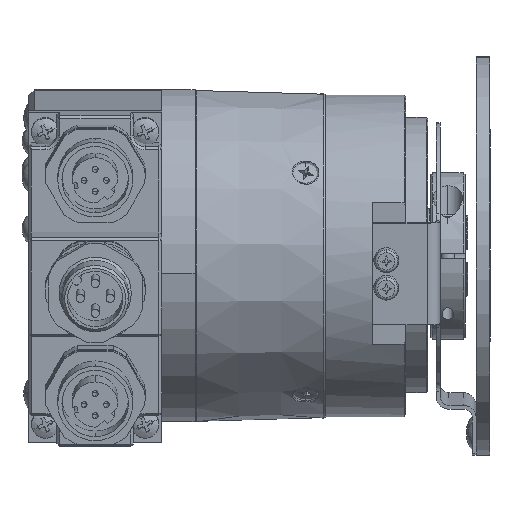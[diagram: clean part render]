
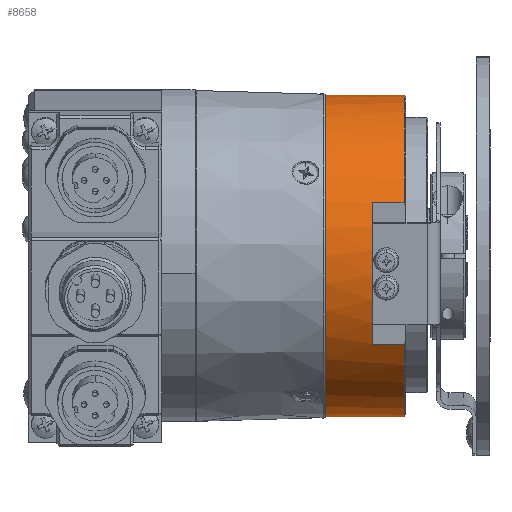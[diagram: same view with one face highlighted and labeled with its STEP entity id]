
A CAD part, front view. The second image highlights one B-rep face of the part: STEP entity #8658.
In plain terms, the highlighted cylindrical face has radius 29 mm (diameter 58 mm), a partial arc.
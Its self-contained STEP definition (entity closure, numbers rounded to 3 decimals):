
#1524 = EDGE_CURVE ( 'NONE', #1611, #1525, #56571, .T. ) ;
#1525 = VERTEX_POINT ( 'NONE', #56564 ) ;
#1528 = VERTEX_POINT ( 'NONE', #56556 ) ;
#1530 = EDGE_CURVE ( 'NONE', #1531, #1528, #56671, .T. ) ;
#1531 = VERTEX_POINT ( 'NONE', #56663 ) ;
#1611 = VERTEX_POINT ( 'NONE', #57095 ) ;
#1853 = EDGE_CURVE ( 'NONE', #1854, #1531, #58743, .T. ) ;
#1854 = VERTEX_POINT ( 'NONE', #58735 ) ;
#8622 = ORIENTED_EDGE ( 'NONE', *, *, #14124, .T. ) ;
#8623 = ORIENTED_EDGE ( 'NONE', *, *, #8625, .T. ) ;
#8625 = EDGE_CURVE ( 'NONE', #14121, #14113, #19623, .T. ) ;
#8626 = ORIENTED_EDGE ( 'NONE', *, *, #14111, .T. ) ;
#8627 = ORIENTED_EDGE ( 'NONE', *, *, #1853, .T. ) ;
#8628 = ORIENTED_EDGE ( 'NONE', *, *, #1530, .T. ) ;
#8629 = ORIENTED_EDGE ( 'NONE', *, *, #8657, .F. ) ;
#8657 = EDGE_CURVE ( 'NONE', #1525, #1528, #19757, .T. ) ;
#8658 = ADVANCED_FACE ( 'NONE', ( #19894 ), #19844, .T. ) ;
#8660 = EDGE_LOOP ( 'NONE', ( #8661, #8662, #8622, #8623, #8626, #8627, #8628, #8629 ) ) ;
#8661 = ORIENTED_EDGE ( 'NONE', *, *, #1524, .F. ) ;
#8662 = ORIENTED_EDGE ( 'NONE', *, *, #8664, .T. ) ;
#8664 = EDGE_CURVE ( 'NONE', #1611, #14147, #19846, .T. ) ;
#14111 = EDGE_CURVE ( 'NONE', #14113, #1854, #45600, .T. ) ;
#14113 = VERTEX_POINT ( 'NONE', #45596 ) ;
#14121 = VERTEX_POINT ( 'NONE', #45673 ) ;
#14124 = EDGE_CURVE ( 'NONE', #14147, #14121, #45668, .T. ) ;
#14147 = VERTEX_POINT ( 'NONE', #45692 ) ;
#19616 = DIRECTION ( 'NONE',  ( 0., -1., 0. ) ) ;
#19618 = DIRECTION ( 'NONE',  ( -1., 0., 0. ) ) ;
#19619 = CARTESIAN_POINT ( 'NONE',  ( 16., 0., 0. ) ) ;
#19621 = AXIS2_PLACEMENT_3D ( 'NONE', #19619, #19618, #19616 ) ;
#19623 = CIRCLE ( 'NONE', #19621, 29. ) ;
#19754 = DIRECTION ( 'NONE',  ( -1., 0., 0. ) ) ;
#19756 = AXIS2_PLACEMENT_3D ( 'NONE', #19772, #19754, #19896 ) ;
#19757 = CIRCLE ( 'NONE', #19756, 29. ) ;
#19772 = CARTESIAN_POINT ( 'NONE',  ( 7.5, 0., 0. ) ) ;
#19827 = DIRECTION ( 'NONE',  ( 0., 0., 1. ) ) ;
#19829 = DIRECTION ( 'NONE',  ( -1., 0., 0. ) ) ;
#19831 = CARTESIAN_POINT ( 'NONE',  ( 21.7, 0., 0. ) ) ;
#19833 = AXIS2_PLACEMENT_3D ( 'NONE', #19831, #19829, #19827 ) ;
#19839 = DIRECTION ( 'NONE',  ( 0., 0., 1. ) ) ;
#19841 = DIRECTION ( 'NONE',  ( -1., 0., 0. ) ) ;
#19843 = AXIS2_PLACEMENT_3D ( 'NONE', #19852, #19841, #19839 ) ;
#19844 = CYLINDRICAL_SURFACE ( 'NONE', #19843, 29. ) ;
#19846 = CIRCLE ( 'NONE', #19833, 29. ) ;
#19852 = CARTESIAN_POINT ( 'NONE',  ( -1.393, 0., 0. ) ) ;
#19894 = FACE_OUTER_BOUND ( 'NONE', #8660, .T. ) ;
#19896 = DIRECTION ( 'NONE',  ( 0., 0., 1. ) ) ;
#45596 = CARTESIAN_POINT ( 'NONE',  ( 16., -27.372, 9.581 ) ) ;
#45597 = DIRECTION ( 'NONE',  ( 1., 0., 0. ) ) ;
#45598 = VECTOR ( 'NONE', #45597, 1000. ) ;
#45599 = CARTESIAN_POINT ( 'NONE',  ( -1.393, -27.372, 9.581 ) ) ;
#45600 = LINE ( 'NONE', #45599, #45598 ) ;
#45664 = DIRECTION ( 'NONE',  ( -1., 0., 0. ) ) ;
#45665 = VECTOR ( 'NONE', #45664, 1000. ) ;
#45667 = CARTESIAN_POINT ( 'NONE',  ( -1.393, -24.241, -15.918 ) ) ;
#45668 = LINE ( 'NONE', #45667, #45665 ) ;
#45673 = CARTESIAN_POINT ( 'NONE',  ( 16., -24.241, -15.918 ) ) ;
#45692 = CARTESIAN_POINT ( 'NONE',  ( 21.7, -24.241, -15.918 ) ) ;
#56556 = CARTESIAN_POINT ( 'NONE',  ( 7.5, 0., 29. ) ) ;
#56564 = CARTESIAN_POINT ( 'NONE',  ( 7.5, 0., -29. ) ) ;
#56566 = DIRECTION ( 'NONE',  ( -1., 0., 0. ) ) ;
#56567 = VECTOR ( 'NONE', #56566, 1000. ) ;
#56569 = CARTESIAN_POINT ( 'NONE',  ( -1.393, 0., -29. ) ) ;
#56571 = LINE ( 'NONE', #56569, #56567 ) ;
#56663 = CARTESIAN_POINT ( 'NONE',  ( 21.7, 0., 29. ) ) ;
#56666 = DIRECTION ( 'NONE',  ( -1., 0., 0. ) ) ;
#56668 = VECTOR ( 'NONE', #56666, 1000. ) ;
#56670 = CARTESIAN_POINT ( 'NONE',  ( -1.393, 0., 29. ) ) ;
#56671 = LINE ( 'NONE', #56670, #56668 ) ;
#57095 = CARTESIAN_POINT ( 'NONE',  ( 21.7, 0., -29. ) ) ;
#58735 = CARTESIAN_POINT ( 'NONE',  ( 21.7, -27.372, 9.581 ) ) ;
#58737 = DIRECTION ( 'NONE',  ( 0., 0., 1. ) ) ;
#58739 = DIRECTION ( 'NONE',  ( -1., 0., 0. ) ) ;
#58741 = CARTESIAN_POINT ( 'NONE',  ( 21.7, 0., 0. ) ) ;
#58742 = AXIS2_PLACEMENT_3D ( 'NONE', #58741, #58739, #58737 ) ;
#58743 = CIRCLE ( 'NONE', #58742, 29. ) ;
